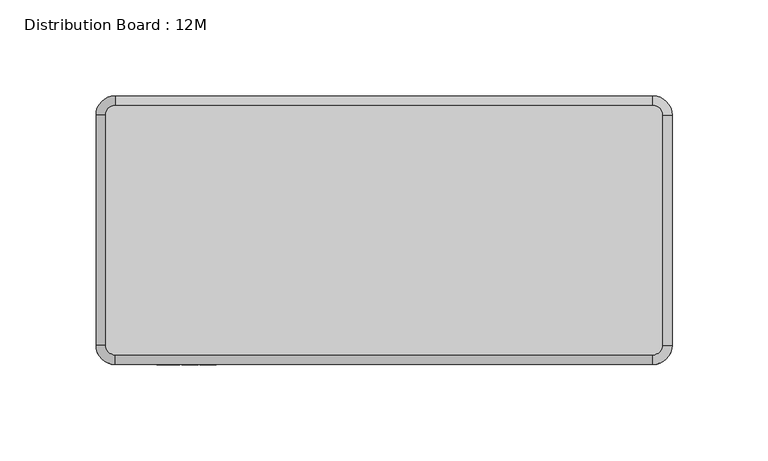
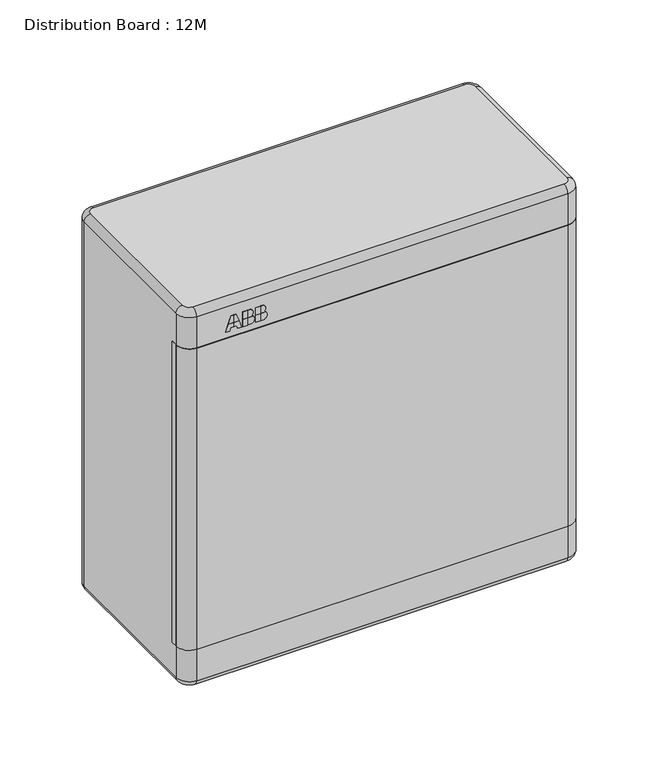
"""IFC4 building model written with IfcOpenShell, lengths in millimetres: proxy geometry, Distribution Board : 12M."""

from ifc_helpers import new_model, si_unit, point, frame, frame_2d, origin, place, context, project, spatial, polyline, circle_curve, ellipse_curve, trimmed, segment, composite_curve, outline, extrude, source, transform, mapped, element, save
from ifc_brep_helpers import plane_surface, cylinder_surface, revolved_surface, advanced_brep


def distribution_board_12m_eee04b7b(model_context):
    return source(origin(), model_context, "Body", "SolidModel", [
        extrude(outline(polyline([(275.1941708, -115.4164349), (277.3856382, -114.618806), (277.3856382, -112.5), (280.829502, -112.5), (280.829502, -116.3950835), (275.1941708, -118.4461763), (275.1941708, -115.4164349)])), frame((0.0, -140.3053499, 0.0), z_axis=(0.0, 1.0, 0.0), x_axis=(0.0, 0.0, 1.0)), (0.0, 0.0, 1.0), 0.3053499),
        extrude(outline(polyline([(281.0359746, -112.5), (286.8058292, -112.5), (286.8058292, -114.2198782), (281.0359746, -116.3199335), (281.0359746, -112.5)])), frame((0.0, -140.3053499, 0.0), z_axis=(0.0, 1.0, 0.0), x_axis=(0.0, 0.0, 1.0)), (0.0, 0.0, 1.0), 0.3053499),
        extrude(outline(polyline([(275.1941708, -109.402066), (275.1941708, -106.3723246), (280.829502, -108.4234174), (280.829502, -112.3185008), (277.3856382, -112.3185008), (277.3856382, -110.1996949), (275.1941708, -109.402066)])), frame((0.0, -140.3053499, 0.0), z_axis=(0.0, 1.0, 0.0), x_axis=(0.0, 0.0, 1.0)), (0.0, 0.0, 1.0), 0.3053499),
        extrude(outline(polyline([(281.0359746, -112.3185008), (281.0359746, -108.4985673), (286.8058292, -110.5986226), (286.8058292, -112.3185008), (281.0359746, -112.3185008)])), frame((0.0, -140.3053499, 0.0), z_axis=(0.0, 1.0, 0.0), x_axis=(0.0, 0.0, 1.0)), (0.0, 0.0, 1.0), 0.3053499),
        extrude(outline(polyline([(-105.3943528, -140.0), (-101.7895951, -140.0), (-101.7895951, -140.3053499), (-105.3943528, -140.3053499), (-105.3943528, -140.0)])), frame((0.0, 0.0, 275.1941708), z_axis=(0.0, 0.0, 1.0), x_axis=(1.0, 0.0, 0.0)), (0.0, 0.0, 1.0), 5.6353312),
        extrude(outline(polyline([(-105.3943528, -140.0), (-101.7895951, -140.0), (-101.7895951, -140.3053499), (-105.3943528, -140.3053499), (-105.3943528, -140.0)])), frame((0.0, 0.0, 281.0359746), z_axis=(0.0, 0.0, 1.0), x_axis=(1.0, 0.0, 0.0)), (0.0, 0.0, 1.0), 5.7698546),
        extrude(outline(composite_curve([segment(polyline([(280.829502, -101.5661016), (275.1941708, -101.5661016), (275.1941708, -99.3307921)]), True, "CONTINUOUS"), segment(trimmed(circle_curve(frame_2d((278.5904435, -100.2776251)), 3.5257851), [point((275.1941708, -99.3307921))], [point((280.829502, -97.5540653))], False, "CARTESIAN"), True, "CONTINUOUS"), segment(polyline([(280.829502, -97.5540653), (280.829502, -101.5661016)]), True, "CONTINUOUS")], self_intersect=False)), frame((0.0, -140.3053499, 0.0), z_axis=(0.0, 1.0, 0.0), x_axis=(0.0, 0.0, 1.0)), (0.0, 0.0, 1.0), 0.3053499),
        extrude(outline(composite_curve([segment(polyline([(286.8058292, -101.5661016), (281.0359746, -101.5661016), (281.0359746, -97.7378342)]), True, "CONTINUOUS"), segment(trimmed(circle_curve(frame_2d((278.5904435, -100.2776251)), 3.5257851), [point((281.0359746, -97.7378342))], [point((281.8923901, -99.0413771))], False, "CARTESIAN"), True, "CONTINUOUS"), segment(trimmed(circle_curve(frame_2d((284.1856559, -100.3443787)), 2.6375901), [point((281.8923901, -99.0413771))], [point((286.8058292, -100.0417682))], False, "CARTESIAN"), True, "CONTINUOUS"), segment(polyline([(286.8058292, -100.0417682), (286.8058292, -101.5661016)]), True, "CONTINUOUS")], self_intersect=False)), frame((0.0, -140.3053499, 0.0), z_axis=(0.0, 1.0, 0.0), x_axis=(0.0, 0.0, 1.0)), (0.0, 0.0, 1.0), 0.3053499),
        extrude(outline(polyline([(-95.8844997, -140.0), (-92.279742, -140.0), (-92.279742, -140.3053499), (-95.8844997, -140.3053499), (-95.8844997, -140.0)])), frame((0.0, 0.0, 275.1941708), z_axis=(0.0, 0.0, 1.0), x_axis=(1.0, 0.0, 0.0)), (0.0, 0.0, 1.0), 5.6353312),
        extrude(outline(polyline([(-95.8844997, -140.0), (-92.279742, -140.0), (-92.279742, -140.3053499), (-95.8844997, -140.3053499), (-95.8844997, -140.0)])), frame((0.0, 0.0, 281.0359746), z_axis=(0.0, 0.0, 1.0), x_axis=(1.0, 0.0, 0.0)), (0.0, 0.0, 1.0), 5.7698546),
        extrude(outline(composite_curve([segment(polyline([(280.829502, -92.0562484), (275.1941708, -92.0562484), (275.1941708, -89.8209389)]), True, "CONTINUOUS"), segment(trimmed(circle_curve(frame_2d((278.5904435, -90.7677719)), 3.5257851), [point((275.1941708, -89.8209389))], [point((280.829502, -88.0442121))], False, "CARTESIAN"), True, "CONTINUOUS"), segment(polyline([(280.829502, -88.0442121), (280.829502, -92.0562484)]), True, "CONTINUOUS")], self_intersect=False)), frame((0.0, -140.3053499, 0.0), z_axis=(0.0, 1.0, 0.0), x_axis=(0.0, 0.0, 1.0)), (0.0, 0.0, 1.0), 0.3053499),
        extrude(outline(composite_curve([segment(polyline([(286.8058292, -92.0562484), (281.0359746, -92.0562484), (281.0359746, -88.227981)]), True, "CONTINUOUS"), segment(trimmed(circle_curve(frame_2d((278.5904435, -90.7677719)), 3.5257851), [point((281.0359746, -88.227981))], [point((281.8923901, -89.5315239))], False, "CARTESIAN"), True, "CONTINUOUS"), segment(trimmed(circle_curve(frame_2d((284.1856559, -90.8345255)), 2.6375901), [point((281.8923901, -89.5315239))], [point((286.8058292, -90.5319151))], False, "CARTESIAN"), True, "CONTINUOUS"), segment(polyline([(286.8058292, -90.5319151), (286.8058292, -92.0562484)]), True, "CONTINUOUS")], self_intersect=False)), frame((0.0, -140.3053499, 0.0), z_axis=(0.0, 1.0, 0.0), x_axis=(0.0, 0.0, 1.0)), (0.0, 0.0, 1.0), 0.3053499),
        extrude(outline(polyline([(270.0, 150.0), (270.0, -150.0), (30.0, -150.0), (30.0, 150.0), (270.0, 150.0)]), holes=[polyline([(255.0, 135.0), (45.0, 135.0), (45.0, -135.0), (255.0, -135.0), (255.0, 135.0)])]), frame((0.0, -130.0, 0.0), z_axis=(0.0, 1.0, 0.0), x_axis=(0.0, 0.0, 1.0)), (0.0, 0.0, 1.0), 5.0),
        extrude(outline(composite_curve([segment(trimmed(circle_curve(frame_2d((-140.0, -130.0)), 10.0), [point((-140.0, -140.0))], [point((-150.0, -130.0))], False, "CARTESIAN"), True, "CONTINUOUS"), segment(polyline([(-150.0, -130.0), (150.0, -130.0)]), True, "CONTINUOUS"), segment(trimmed(circle_curve(frame_2d((140.0, -130.0)), 10.0), [point((150.0, -130.0))], [point((140.0, -140.0))], False, "CARTESIAN"), True, "CONTINUOUS"), segment(polyline([(140.0, -140.0), (-140.0, -140.0)]), True, "CONTINUOUS")], self_intersect=False)), frame((0.0, 0.0, 30.0), z_axis=(0.0, 0.0, 1.0), x_axis=(1.0, 0.0, 0.0)), (0.0, 0.0, 1.0), 240.0),
        advanced_brep(
        [(145.0, -10.0, 300.0), (140.0, -5.0, 300.0), (-140.0, -5.0, 300.0), (-145.0, -10.0, 300.0), (-145.0, -130.0, 300.0), (-140.0, -135.0, 300.0), (140.0, -135.0, 300.0), (145.0, -130.0, 300.0), (145.0, -130.0, 0.0), (140.0, -135.0, 0.0), (-140.0, -135.0, 0.0), (-145.0, -130.0, 0.0), (-145.0, -10.0, 0.0), (-140.0, -5.0, 0.0), (140.0, -5.0, 0.0), (145.0, -10.0, 0.0), (140.0, 0.0, 5.0), (-140.0, 0.0, 5.0), (-140.0, 0.0, 295.0), (140.0, 0.0, 295.0), (-150.0, -10.0, 5.0), (-150.0, -130.0, 5.0), (-150.0, -130.0, 30.0), (-150.0, -125.0, 30.0), (-150.0, -125.0, 270.0), (-150.0, -130.0, 270.0), (-150.0, -130.0, 295.0), (-150.0, -10.0, 295.0), (-140.0, -140.0, 5.0), (140.0, -140.0, 5.0), (140.0, -140.0, 30.0), (-140.0, -140.0, 30.0), (-140.0, -140.0, 270.0), (140.0, -140.0, 270.0), (140.0, -140.0, 295.0), (-140.0, -140.0, 295.0), (150.0, -130.0, 5.0), (150.0, -10.0, 5.0), (150.0, -10.0, 295.0), (150.0, -130.0, 295.0), (150.0, -130.0, 270.0), (150.0, -125.0, 270.0), (150.0, -125.0, 30.0), (150.0, -130.0, 30.0), (140.0, -10.0, 290.0), (140.0, -130.0, 290.0), (-140.0, -130.0, 290.0), (-140.0, -10.0, 290.0), (140.0, -10.0, 10.0), (-140.0, -10.0, 10.0), (-140.0, -130.0, 10.0), (140.0, -130.0, 10.0), (-140.0, -130.0, 270.0), (-140.0, -125.0, 270.0), (-140.0, -125.0, 30.0), (-140.0, -130.0, 30.0), (140.0, -130.0, 270.0), (140.0, -130.0, 30.0), (140.0, -125.0, 30.0), (140.0, -125.0, 270.0)],
        [
            (0, 1, circle_curve(frame((140.0, -10.0, 300.0), z_axis=(0.0, 0.0, 1.0), x_axis=(0.0, 1.0, 0.0)), 5.0)),
            (1, 2),
            (2, 3, circle_curve(frame((-140.0, -10.0, 300.0), z_axis=(0.0, 0.0, 1.0), x_axis=(-1.0, 0.0, 0.0)), 5.0)),
            (3, 4),
            (4, 5, circle_curve(frame((-140.0, -130.0, 300.0), z_axis=(0.0, 0.0, 1.0), x_axis=(0.0, -1.0, 0.0)), 5.0)),
            (5, 6),
            (6, 7, circle_curve(frame((140.0, -130.0, 300.0), z_axis=(0.0, 0.0, 1.0), x_axis=(1.0, 0.0, 0.0)), 5.0)),
            (7, 0),
            (8, 9, circle_curve(frame((140.0, -130.0, 0.0), z_axis=(0.0, 0.0, -1.0), x_axis=(1.0, 0.0, 0.0)), 5.0)),
            (9, 10),
            (10, 11, circle_curve(frame((-140.0, -130.0, 0.0), z_axis=(0.0, 0.0, -1.0), x_axis=(0.0, -1.0, 0.0)), 5.0)),
            (11, 12),
            (12, 13, circle_curve(frame((-140.0, -10.0, 0.0), z_axis=(0.0, 0.0, -1.0), x_axis=(-1.0, 0.0, 0.0)), 5.0)),
            (13, 14),
            (14, 15, circle_curve(frame((140.0, -10.0, 0.0), z_axis=(0.0, 0.0, -1.0), x_axis=(0.0, 1.0, 0.0)), 5.0)),
            (15, 8),
            (16, 17),
            (17, 18),
            (18, 19),
            (19, 16),
            (20, 21),
            (21, 22),
            (22, 23),
            (23, 24),
            (24, 25),
            (25, 26),
            (26, 27),
            (27, 20),
            (28, 29),
            (29, 30),
            (30, 31),
            (31, 28),
            (32, 33),
            (33, 34),
            (34, 35),
            (35, 32),
            (36, 37),
            (37, 38),
            (38, 39),
            (39, 40),
            (40, 41),
            (41, 42),
            (42, 43),
            (43, 36),
            (44, 45),
            (45, 46),
            (46, 47),
            (47, 44),
            (48, 49),
            (49, 50),
            (50, 51),
            (51, 48),
            (47, 49),
            (48, 44),
            (46, 52),
            (52, 53),
            (53, 54),
            (54, 55),
            (55, 50),
            (45, 56),
            (56, 52),
            (55, 57),
            (57, 51),
            (57, 58),
            (58, 59),
            (59, 56),
            (17, 20, circle_curve(frame((-140.0, -10.0, 5.0), z_axis=(0.0, 0.0, 1.0), x_axis=(1.0, 0.0, 0.0)), 10.0)),
            (27, 18, circle_curve(frame((-140.0, -10.0, 295.0), z_axis=(0.0, 0.0, -1.0), x_axis=(1.0, 0.0, 0.0)), 10.0)),
            (21, 28, circle_curve(frame((-140.0, -130.0, 5.0), z_axis=(0.0, 0.0, 1.0), x_axis=(1.0, 0.0, 0.0)), 10.0)),
            (31, 22, circle_curve(frame((-140.0, -130.0, 30.0), z_axis=(0.0, 0.0, -1.0), x_axis=(1.0, 0.0, 0.0)), 10.0)),
            (25, 32, circle_curve(frame((-140.0, -130.0, 270.0), z_axis=(0.0, 0.0, 1.0), x_axis=(1.0, 0.0, 0.0)), 10.0)),
            (35, 26, circle_curve(frame((-140.0, -130.0, 295.0), z_axis=(0.0, 0.0, -1.0), x_axis=(1.0, 0.0, 0.0)), 10.0)),
            (29, 36, circle_curve(frame((140.0, -130.0, 5.0), z_axis=(0.0, 0.0, 1.0), x_axis=(1.0, 0.0, 0.0)), 10.0)),
            (43, 30, circle_curve(frame((140.0, -130.0, 30.0), z_axis=(0.0, 0.0, -1.0), x_axis=(1.0, 0.0, 0.0)), 10.0)),
            (33, 40, circle_curve(frame((140.0, -130.0, 270.0), z_axis=(0.0, 0.0, 1.0), x_axis=(1.0, 0.0, 0.0)), 10.0)),
            (39, 34, circle_curve(frame((140.0, -130.0, 295.0), z_axis=(0.0, 0.0, -1.0), x_axis=(1.0, 0.0, 0.0)), 10.0)),
            (37, 16, circle_curve(frame((140.0, -10.0, 5.0), z_axis=(0.0, 0.0, 1.0), x_axis=(1.0, 0.0, 0.0)), 10.0)),
            (19, 38, circle_curve(frame((140.0, -10.0, 295.0), z_axis=(0.0, 0.0, -1.0), x_axis=(1.0, 0.0, 0.0)), 10.0)),
            (29, 9, circle_curve(frame((140.0, -135.0, 5.0), z_axis=(1.0, 0.0, 0.0), x_axis=(0.0, 1.0, 0.0)), 5.0)),
            (8, 36, circle_curve(frame((145.0, -130.0, 5.0), z_axis=(0.0, -1.0, 0.0), x_axis=(-1.0, 0.0, 0.0)), 5.0)),
            (28, 10, circle_curve(frame((-140.0, -135.0, 5.0), z_axis=(1.0, 0.0, 0.0), x_axis=(0.0, 1.0, 0.0)), 5.0)),
            (21, 11, circle_curve(frame((-145.0, -130.0, 5.0), z_axis=(0.0, -1.0, 0.0), x_axis=(1.0, 0.0, 0.0)), 5.0)),
            (20, 12, circle_curve(frame((-145.0, -10.0, 5.0), z_axis=(2.294183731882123e-12, -1.0, 0.0), x_axis=(1.0, 2.294183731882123e-12, 0.0)), 5.0)),
            (17, 13, circle_curve(frame((-140.0, -5.0, 5.0), z_axis=(-1.0, 0.0, 0.0), x_axis=(0.0, -1.0, 0.0)), 5.0)),
            (16, 14, circle_curve(frame((140.0, -5.0, 5.0), z_axis=(-1.0, 0.0, 0.0), x_axis=(0.0, -1.0, 0.0)), 5.0)),
            (37, 15, circle_curve(frame((145.0, -10.0, 5.0), z_axis=(0.0, 1.0, 0.0), x_axis=(-1.0, 0.0, 0.0)), 5.0)),
            (54, 23),
            (42, 58),
            (24, 53),
            (59, 41),
            (0, 38, circle_curve(frame((145.0, -10.0, 295.0), z_axis=(0.0, 1.0, 0.0), x_axis=(1.0, 0.0, 0.0)), 5.0)),
            (19, 1, circle_curve(frame((140.0, -5.0, 295.0), z_axis=(1.0, 0.0, 0.0), x_axis=(0.0, 1.0, 0.0)), 5.0)),
            (7, 39, circle_curve(frame((145.0, -130.0, 295.0), z_axis=(0.0, 1.0, 0.0), x_axis=(1.0, 0.0, 0.0)), 5.0)),
            (6, 34, circle_curve(frame((140.0, -135.0, 295.0), z_axis=(1.0, 0.0, 0.0), x_axis=(0.0, -1.0, 0.0)), 5.0)),
            (5, 35, circle_curve(frame((-140.0, -135.0, 295.0), z_axis=(1.0, 0.0, 0.0), x_axis=(0.0, -1.0, 0.0)), 5.0)),
            (4, 26, circle_curve(frame((-145.0, -130.0, 295.0), z_axis=(0.0, -1.0, 0.0), x_axis=(-1.0, 0.0, 0.0)), 5.0)),
            (3, 27, circle_curve(frame((-145.0, -10.0, 295.0), z_axis=(0.0, -1.0, 0.0), x_axis=(-1.0, 0.0, 0.0)), 5.0)),
            (2, 18, circle_curve(frame((-140.0, -5.0, 295.0), z_axis=(-1.0, 0.0, 0.0), x_axis=(0.0, 1.0, 0.0)), 5.0)),
        ],
        [
            plane_surface(frame((-140.0, 0.0, 300.0), z_axis=(0.0, 0.0, 1.0), x_axis=(-1.0, 0.0, 0.0))),
            plane_surface(frame((-140.0, 0.0, 0.0), z_axis=(0.0, 0.0, -1.0), x_axis=(1.0, 0.0, 0.0))),
            plane_surface(frame((140.0, 0.0, 300.0), z_axis=(0.0, 1.0, 0.0), x_axis=(0.0, 0.0, -1.0))),
            plane_surface(frame((-150.0, -10.0, 300.0), z_axis=(-1.0, -2.2941837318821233e-12, 0.0), x_axis=(0.0, 0.0, -1.0))),
            plane_surface(frame((-140.0, -140.0, 300.0), z_axis=(0.0, -1.0, 0.0), x_axis=(0.0, 0.0, -1.0))),
            plane_surface(frame((150.0, -130.0, 300.0), z_axis=(1.0, 0.0, 0.0), x_axis=(0.0, 0.0, -1.0))),
            plane_surface(frame((-140.0, -10.0, 290.0), z_axis=(0.0, 0.0, -1.0), x_axis=(-1.0, 0.0, 0.0))),
            plane_surface(frame((-140.0, -10.0, 10.0), z_axis=(0.0, 0.0, 1.0), x_axis=(1.0, 0.0, 0.0))),
            plane_surface(frame((140.0, -10.0, 290.0), z_axis=(0.0, -1.0, 0.0), x_axis=(0.0, 0.0, -1.0))),
            plane_surface(frame((-140.0, -10.0, 290.0), z_axis=(1.0, 0.0, 0.0), x_axis=(0.0, 0.0, -1.0))),
            plane_surface(frame((-140.0, -130.0, 290.0), z_axis=(0.0, 1.0, 0.0), x_axis=(0.0, 0.0, -1.0))),
            plane_surface(frame((140.0, -130.0, 290.0), z_axis=(-1.0, 0.0, 0.0), x_axis=(0.0, 0.0, -1.0))),
            cylinder_surface(frame((-140.0, -10.0, 0.0), z_axis=(0.0, 0.0, 1.0), x_axis=(1.0, 0.0, 0.0)), 10.0),
            cylinder_surface(frame((-140.0, -130.0, 0.0), z_axis=(0.0, 0.0, 1.0), x_axis=(1.0, 0.0, 0.0)), 10.0),
            cylinder_surface(frame((140.0, -130.0, 0.0), z_axis=(0.0, 0.0, 1.0), x_axis=(1.0, 0.0, 0.0)), 10.0),
            cylinder_surface(frame((140.0, -10.0, 0.0), z_axis=(0.0, 0.0, 1.0), x_axis=(1.0, 0.0, 0.0)), 10.0),
            revolved_surface(trimmed(ellipse_curve(frame((145.0, -130.0, 5.0), z_axis=(0.0, 1.0, 0.0), x_axis=(-1.0, 0.0, 0.0)), 5.0, 5.0), [point((150.0, -130.0, 5.0))], [point((145.0, -130.0, 0.0))], True, "CARTESIAN"), (140.0, -130.0, 0.0), (0.0, 0.0, -1.0)),
            cylinder_surface(frame((140.0, -135.0, 5.0), z_axis=(-1.0, 0.0, 0.0), x_axis=(0.0, 1.0, 0.0)), 5.0),
            revolved_surface(trimmed(ellipse_curve(frame((-140.0, -135.0, 5.0), z_axis=(1.0, 0.0, 0.0), x_axis=(0.0, 1.0, 0.0)), 5.0, 5.0), [point((-140.0, -140.0, 5.0))], [point((-140.0, -135.0, 0.0))], True, "CARTESIAN"), (-140.0, -130.0, 0.0), (0.0, 0.0, -1.0)),
            cylinder_surface(frame((-145.0, -130.0, 5.0), z_axis=(-2.294183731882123e-12, 1.0, 0.0), x_axis=(1.0, 2.294183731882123e-12, 0.0)), 5.0),
            revolved_surface(trimmed(ellipse_curve(frame((-145.0, -10.0, 5.0), z_axis=(0.0, -1.0, 0.0), x_axis=(1.0, 0.0, 0.0)), 5.0, 5.0), [point((-150.0, -10.0, 5.0))], [point((-145.0, -10.0, 0.0))], True, "CARTESIAN"), (-140.0, -10.0, 0.0), (0.0, 0.0, -1.0)),
            cylinder_surface(frame((-140.0, -5.0, 5.0), z_axis=(1.0, 0.0, 0.0), x_axis=(0.0, -1.0, 0.0)), 5.0),
            revolved_surface(trimmed(ellipse_curve(frame((140.0, -5.0, 5.0), z_axis=(-1.0, 0.0, 0.0), x_axis=(0.0, -1.0, 0.0)), 5.0, 5.0), [point((140.0, 0.0, 5.0))], [point((140.0, -5.0, 0.0))], True, "CARTESIAN"), (140.0, -10.0, 0.0), (0.0, 0.0, -1.0)),
            cylinder_surface(frame((145.0, -10.0, 5.0), z_axis=(0.0, -1.0, 0.0), x_axis=(-1.0, 0.0, 0.0)), 5.0),
            plane_surface(frame((150.0, -125.0, 30.0), z_axis=(0.0, 0.0, 1.0), x_axis=(0.0, -1.0, 0.0))),
            plane_surface(frame((150.0, -125.0, 270.0), z_axis=(0.0, 0.0, -1.0), x_axis=(0.0, 1.0, 0.0))),
            plane_surface(frame((-150.0, -125.0, 30.0), z_axis=(0.0, -1.0, 0.0), x_axis=(0.0, 0.0, 1.0))),
            revolved_surface(trimmed(ellipse_curve(frame((140.0, -5.0, 295.0), z_axis=(-1.0, 0.0, 0.0), x_axis=(0.0, 1.0, 0.0)), 5.0, 5.0), [point((140.0, -5.0, 300.0))], [point((140.0, 0.0, 295.0))], True, "CARTESIAN"), (140.0, -10.0, 0.0), (0.0, 0.0, -1.0)),
            cylinder_surface(frame((145.0, -10.0, 295.0), z_axis=(0.0, -1.0, 0.0), x_axis=(1.0, 0.0, 0.0)), 5.0),
            revolved_surface(trimmed(ellipse_curve(frame((145.0, -130.0, 295.0), z_axis=(0.0, 1.0, 0.0), x_axis=(1.0, 0.0, 0.0)), 5.0, 5.0), [point((145.0, -130.0, 300.0))], [point((150.0, -130.0, 295.0))], True, "CARTESIAN"), (140.0, -130.0, 0.0), (0.0, 0.0, -1.0)),
            cylinder_surface(frame((140.0, -135.0, 295.0), z_axis=(-1.0, 0.0, 0.0), x_axis=(0.0, -1.0, 0.0)), 5.0),
            revolved_surface(trimmed(ellipse_curve(frame((-140.0, -135.0, 295.0), z_axis=(1.0, 0.0, 0.0), x_axis=(0.0, -1.0, 0.0)), 5.0, 5.0), [point((-140.0, -135.0, 300.0))], [point((-140.0, -140.0, 295.0))], True, "CARTESIAN"), (-140.0, -130.0, 0.0), (0.0, 0.0, -1.0)),
            cylinder_surface(frame((-145.0, -130.0, 295.0), z_axis=(0.0, 1.0, 0.0), x_axis=(-1.0, 0.0, 0.0)), 5.0),
            revolved_surface(trimmed(ellipse_curve(frame((-145.0, -10.0, 295.0), z_axis=(0.0, -1.0, 0.0), x_axis=(-1.0, 0.0, 0.0)), 5.0, 5.0), [point((-145.0, -10.0, 300.0))], [point((-150.0, -10.0, 295.0))], True, "CARTESIAN"), (-140.0, -10.0, 0.0), (0.0, 0.0, -1.0)),
            cylinder_surface(frame((-140.0, -5.0, 295.0), z_axis=(1.0, 0.0, 0.0), x_axis=(0.0, 1.0, 0.0)), 5.0),
        ],
        [
            (0, [[1, 2, 3, 4, 5, 6, 7, 8]]),
            (1, [[9, 10, 11, 12, 13, 14, 15, 16]]),
            (2, [[17, 18, 19, 20]]),
            (3, [[21, 22, 23, 24, 25, 26, 27, 28]]),
            (4, [[29, 30, 31, 32]]),
            (4, [[33, 34, 35, 36]]),
            (5, [[37, 38, 39, 40, 41, 42, 43, 44]]),
            (6, [[45, 46, 47, 48]]),
            (7, [[49, 50, 51, 52]]),
            (8, [[-48, 53, -49, 54]]),
            (9, [[-47, 55, 56, 57, 58, 59, -50, -53]]),
            (10, [[-46, 60, 61, -55]]),
            (10, [[-51, -59, 62, 63]]),
            (11, [[-45, -54, -52, -63, 64, 65, 66, -60]]),
            (12, [[67, -28, 68, -18]]),
            (13, [[69, -32, 70, -22]]),
            (13, [[71, -36, 72, -26]]),
            (14, [[73, -44, 74, -30]]),
            (14, [[75, -40, 76, -34]]),
            (15, [[77, -20, 78, -38]]),
            (16, [[79, -9, 80, -73]]),
            (17, [[-79, -29, 81, -10]]),
            (18, [[-81, -69, 82, -11]]),
            (19, [[-82, -21, 83, -12]]),
            (20, [[-83, -67, 84, -13]]),
            (21, [[-84, -17, 85, -14]]),
            (22, [[-85, -77, 86, -15]]),
            (23, [[-80, -16, -86, -37]]),
            (24, [[87, -23, -70, -31, -74, -43, 88, -64, -62, -58]]),
            (25, [[89, -56, -61, -66, 90, -41, -75, -33, -71, -25]]),
            (26, [[-87, -57, -89, -24]]),
            (26, [[-88, -42, -90, -65]]),
            (27, [[91, -78, 92, -1]]),
            (28, [[-91, -8, 93, -39]]),
            (29, [[-93, -7, 94, -76]]),
            (30, [[-94, -6, 95, -35]]),
            (31, [[-95, -5, 96, -72]]),
            (32, [[-96, -4, 97, -27]]),
            (33, [[-97, -3, 98, -68]]),
            (34, [[-92, -19, -98, -2]]),
        ],
    ),
        extrude(outline(polyline([(-125.0, 255.0), (-125.0, 270.0), (-95.0, 270.0), (-95.0, 190.5963199), (-113.5284713, 216.0985728), (-113.5284713, 238.6169591), (-125.0, 255.0)])), frame((-140.0, 0.0, 0.0), z_axis=(1.0, 0.0, 0.0), x_axis=(0.0, 1.0, 0.0)), (0.0, 0.0, 1.0), 280.0),
        extrude(outline(polyline([(-125.0, 30.0), (-125.0, 45.0), (-120.4387769, 51.5141017), (-120.4387769, 49.1206537), (-106.5468088, 30.0), (-125.0, 30.0)])), frame((-140.0, 0.0, 0.0), z_axis=(1.0, 0.0, 0.0), x_axis=(0.0, 1.0, 0.0)), (0.0, 0.0, 1.0), 280.0),
        extrude(outline(polyline([(-95.0, 141.0507633), (-95.0, 63.6527377), (-113.5284713, 89.1549906), (-113.5284713, 166.5530162), (-95.0, 141.0507633)])), frame((-140.0, 0.0, 0.0), z_axis=(1.0, 0.0, 0.0), x_axis=(0.0, 1.0, 0.0)), (0.0, 0.0, 1.0), 280.0),
        extrude(outline(polyline([(-135.0, -113.5284713), (-140.0, -125.0), (-140.0, -87.9402054), (-135.0, -87.9402054), (-135.0, -113.5284713)])), frame((0.0, 0.0, 10.0), z_axis=(0.0, 0.0, 1.0), x_axis=(1.0, 0.0, 0.0)), (0.0, 0.0, 1.0), 280.0),
        extrude(outline(polyline([(135.0, -113.5284713), (135.0, -87.9402054), (140.0, -87.9402054), (140.0, -125.0), (135.0, -113.5284713)])), frame((0.0, 0.0, 10.0), z_axis=(0.0, 0.0, 1.0), x_axis=(1.0, 0.0, 0.0)), (0.0, 0.0, 1.0), 280.0),
    ])


if __name__ == "__main__":
    model = new_model("IFC4")
    model_context = context("Model", 3, world=origin())
    ifc_project = project(units=[si_unit("LENGTHUNIT", "METRE", prefix="MILLI")], contexts=[model_context])
    site = spatial("IfcSite", under=ifc_project)
    building = spatial("IfcBuilding", under=site)
    placement = place(None, origin())
    distribution_board_12m_shape = distribution_board_12m_eee04b7b(model_context)
    element("IfcBuildingElementProxy", 1, Name="Distribution Board : 12M", ObjectType="Distribution Board : 12M", at=placement, inside=building, context=model_context, shape_type="MappedRepresentation", body=[
        mapped(distribution_board_12m_shape, transform((0.0, 0.0, 0.0), x_axis=(1.0, 0.0, 0.0), y_axis=(0.0, 1.0, 0.0), z_axis=(0.0, 0.0, 1.0))),
    ])
    save(model, "model.ifc")
